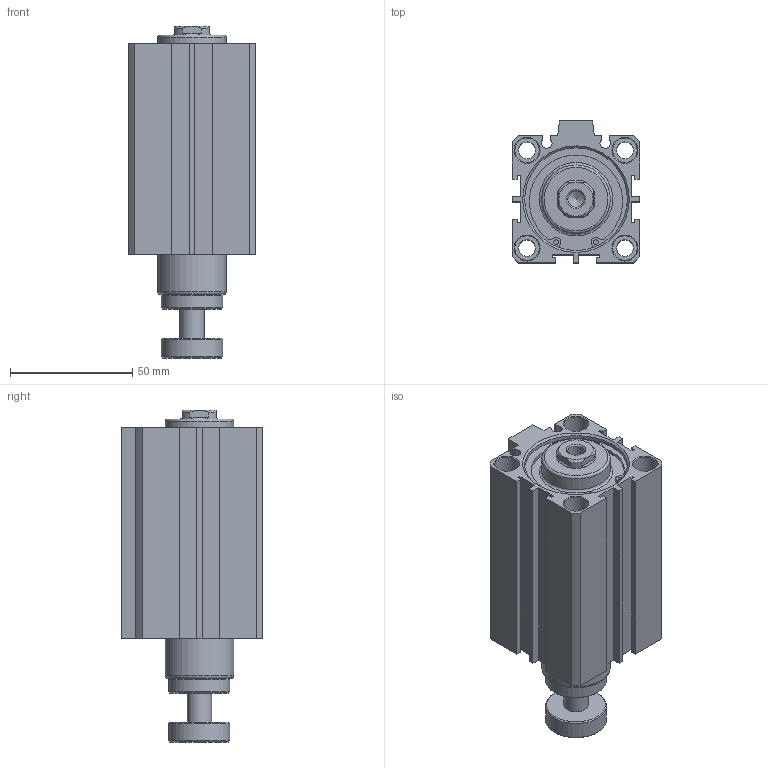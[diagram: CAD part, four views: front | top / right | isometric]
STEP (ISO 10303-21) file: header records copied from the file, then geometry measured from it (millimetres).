
FILE_DESCRIPTION((''),'2;1');
FILE_NAME('I:\3D電子目錄\氣缸\JDAR\JDAR-S\JDAR40-S\JDAR40x50-S.stp','2007-05-05T09:37:54',('662F206'),(''),'Autodesk Inventor 11','Autodesk Inventor 11','');
FILE_SCHEMA(('AUTOMOTIVE_DESIGN { 1 0 10303 214 1 1 1 1 }'));
Length unit declared in the file: millimetre
Products named in the file (3): JDAR40-S; JDAR40; R 形環 42
Assembly tree (3 placements, depth 2):
  JDAR40-S
    JDAR40
    R 形環 42  x2
Bounding box: 52 x 58 x 135.8 mm (x, y, z)
Volume: 221616.1 mm3; surface area: 47702.8 mm2
Topology: 3 solids, 3 shells, 172 faces, 405 edges, 263 vertices
Faces by surface type: plane 92, cylinder 51, cone 23, bspline 4, torus 2
Full cylindrical faces by diameter (mm): 1.9 x4, 2.2 x2, 6.8 x4, 10 x9, 25 x2, 28 x2, 42 x4, 44.5 x2
Entity records: 4475 total; most frequent: CARTESIAN_POINT 858, DIRECTION 758, ORIENTED_EDGE 634, EDGE_CURVE 317, AXIS2_PLACEMENT_3D 287, EDGE_LOOP 248, VERTEX_POINT 237, VECTOR 184
